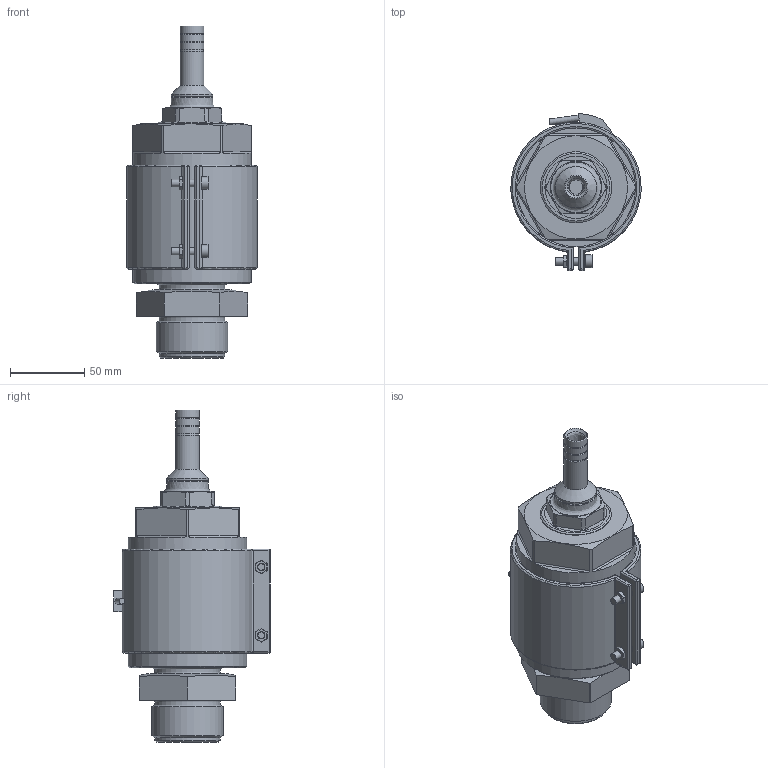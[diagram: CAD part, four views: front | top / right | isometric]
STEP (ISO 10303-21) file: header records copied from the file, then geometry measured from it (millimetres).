
FILE_DESCRIPTION(('STEP AP214'),'1');
FILE_NAME('FF1000.stp','2018-06-15T11:39:10',(' '),(' '),'Spatial InterOp 3D',' ',' ');
FILE_SCHEMA(('AUTOMOTIVE_DESIGN { 1 0 10303 214 1 1 1 1 }'));
Length unit declared in the file: millimetre
Products named in the file (1): 1
Bounding box: 87.89 x 105.88 x 223.91 mm (x, y, z)
Volume: 736938.8 mm3; surface area: 137113.3 mm2
Topology: 9 solids, 9 shells, 229 faces, 537 edges, 332 vertices
Faces by surface type: plane 110, cylinder 63, cone 27, revolution 13, torus 12, bspline 4
Full cylindrical faces by diameter (mm): 4 x1, 4.2 x2, 5 x2, 5.5 x4, 8.5 x2, 16 x5, 22 x1, 28 x1, 33 x2, 44 x2, 45.4 x2, 48 x3, 80 x1
Entity records: 9204 total; most frequent: CARTESIAN_POINT 2483, DIRECTION 1006, ORIENTED_EDGE 892, EDGE_CURVE 446, AXIS2_PLACEMENT_3D 384, EDGE_LOOP 327, VERTEX_POINT 315, FACE_OUTER_BOUND 271
